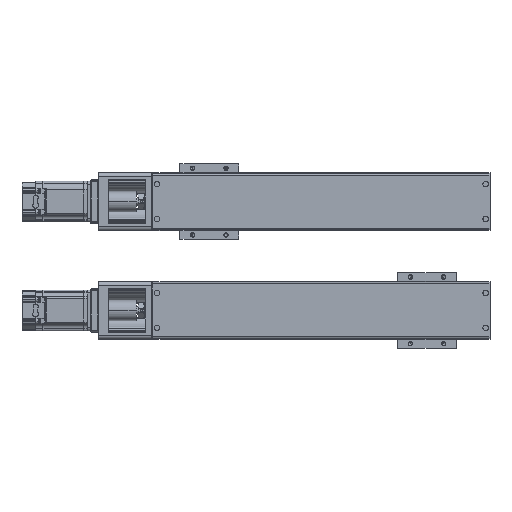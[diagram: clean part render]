
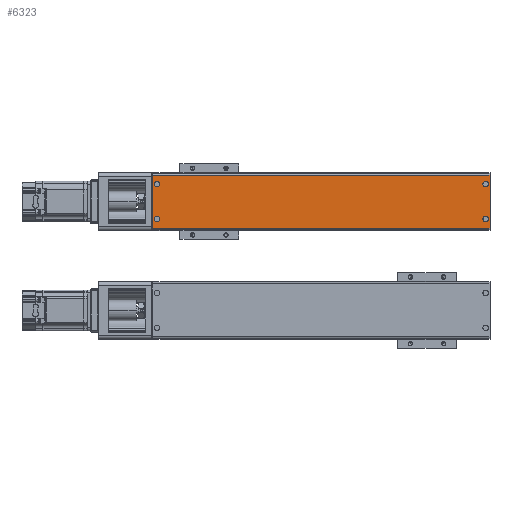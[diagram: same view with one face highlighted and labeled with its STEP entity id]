
A CAD part, top view. The second image highlights one B-rep face of the part: STEP entity #6323.
In plain terms, the highlighted planar face has unit normal (0, 0, 1).
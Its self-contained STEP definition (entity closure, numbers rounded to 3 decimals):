
#6323=ADVANCED_FACE('',(#14474,#14475,#14476,#14477,#14478),#14479,.F.);
#14474=FACE_OUTER_BOUND('',#25627,.T.);
#14475=FACE_BOUND('',#25628,.T.);
#14476=FACE_BOUND('',#25629,.T.);
#14477=FACE_BOUND('',#25630,.T.);
#14478=FACE_BOUND('',#25631,.T.);
#14479=PLANE('',#25632);
#25627=EDGE_LOOP('',(#44517,#44518,#44519,#44520));
#25628=EDGE_LOOP('',(#44521,#44522));
#25629=EDGE_LOOP('',(#44523,#44524));
#25630=EDGE_LOOP('',(#44525,#44526));
#25631=EDGE_LOOP('',(#44527,#44528));
#25632=AXIS2_PLACEMENT_3D('',#44529,#44530,#44531);
#44517=ORIENTED_EDGE('',*,*,#66086,.T.);
#44518=ORIENTED_EDGE('',*,*,#68588,.F.);
#44519=ORIENTED_EDGE('',*,*,#68321,.F.);
#44520=ORIENTED_EDGE('',*,*,#68589,.T.);
#44521=ORIENTED_EDGE('',*,*,#68590,.F.);
#44522=ORIENTED_EDGE('',*,*,#68591,.F.);
#44523=ORIENTED_EDGE('',*,*,#68307,.F.);
#44524=ORIENTED_EDGE('',*,*,#65563,.F.);
#44525=ORIENTED_EDGE('',*,*,#64802,.F.);
#44526=ORIENTED_EDGE('',*,*,#68592,.F.);
#44527=ORIENTED_EDGE('',*,*,#65911,.F.);
#44528=ORIENTED_EDGE('',*,*,#66247,.F.);
#44529=CARTESIAN_POINT('',(452.0,146.0,23.0));
#44530=DIRECTION('',(0.0,0.,-1.0));
#44531=DIRECTION('',(0.0,1.0,0.));
#64802=EDGE_CURVE('',#78385,#78381,#78387,.F.);
#65563=EDGE_CURVE('',#79604,#79606,#79607,.F.);
#65911=EDGE_CURVE('',#80148,#80144,#80150,.F.);
#66086=EDGE_CURVE('',#80433,#80431,#80434,.T.);
#66247=EDGE_CURVE('',#80144,#80148,#80697,.F.);
#68307=EDGE_CURVE('',#79606,#79604,#83773,.F.);
#68321=EDGE_CURVE('',#83795,#83797,#83798,.T.);
#68588=EDGE_CURVE('',#83797,#80431,#84187,.T.);
#68589=EDGE_CURVE('',#83795,#80433,#84188,.T.);
#68590=EDGE_CURVE('',#84189,#84190,#84191,.F.);
#68591=EDGE_CURVE('',#84190,#84189,#84192,.F.);
#68592=EDGE_CURVE('',#78381,#78385,#84193,.F.);
#78381=VERTEX_POINT('',#97138);
#78385=VERTEX_POINT('',#97143);
#78387=CIRCLE('',#97146,3.8);
#79604=VERTEX_POINT('',#98827);
#79606=VERTEX_POINT('',#98830);
#79607=CIRCLE('',#98831,3.8);
#80144=VERTEX_POINT('',#99556);
#80148=VERTEX_POINT('',#99561);
#80150=CIRCLE('',#99564,3.8);
#80431=VERTEX_POINT('',#99951);
#80433=VERTEX_POINT('',#99953);
#80434=LINE('',#99954,#99955);
#80697=CIRCLE('',#100303,3.8);
#83773=CIRCLE('',#104551,3.8);
#83795=VERTEX_POINT('',#104582);
#83797=VERTEX_POINT('',#104584);
#83798=LINE('',#104585,#104586);
#84187=LINE('',#105154,#105155);
#84188=LINE('',#105156,#105157);
#84189=VERTEX_POINT('',#105158);
#84190=VERTEX_POINT('',#105159);
#84191=CIRCLE('',#105160,3.8);
#84192=CIRCLE('',#105161,3.8);
#84193=CIRCLE('',#105162,3.8);
#97138=CARTESIAN_POINT('',(-7.,129.7,23.0));
#97143=CARTESIAN_POINT('',(-7.,137.3,23.0));
#97146=AXIS2_PLACEMENT_3D('',#117581,#117582,#117583);
#98827=CARTESIAN_POINT('',(446.0,129.7,23.0));
#98830=CARTESIAN_POINT('',(446.0,137.3,23.0));
#98831=AXIS2_PLACEMENT_3D('',#118631,#118632,#118633);
#99556=CARTESIAN_POINT('',(-7.,81.7,23.0));
#99561=CARTESIAN_POINT('',(-7.,89.3,23.0));
#99564=AXIS2_PLACEMENT_3D('',#119083,#119084,#119085);
#99951=CARTESIAN_POINT('',(-13.,73.,23.0));
#99953=CARTESIAN_POINT('',(-13.,146.0,23.0));
#99954=CARTESIAN_POINT('',(-13.,146.0,23.0));
#99955=VECTOR('',#119335,1000.0);
#100303=AXIS2_PLACEMENT_3D('',#119568,#119569,#119570);
#104551=AXIS2_PLACEMENT_3D('',#122233,#122234,#122235);
#104582=CARTESIAN_POINT('',(452.0,146.0,23.0));
#104584=CARTESIAN_POINT('',(452.0,73.,23.0));
#104585=CARTESIAN_POINT('',(452.0,146.0,23.0));
#104586=VECTOR('',#122254,1000.0);
#105154=CARTESIAN_POINT('',(452.0,73.,23.0));
#105155=VECTOR('',#122564,1000.0);
#105156=CARTESIAN_POINT('',(452.0,146.0,23.0));
#105157=VECTOR('',#122565,1000.0);
#105158=CARTESIAN_POINT('',(446.0,89.3,23.0));
#105159=CARTESIAN_POINT('',(446.0,81.7,23.0));
#105160=AXIS2_PLACEMENT_3D('',#122566,#122567,#122568);
#105161=AXIS2_PLACEMENT_3D('',#122569,#122570,#122571);
#105162=AXIS2_PLACEMENT_3D('',#122572,#122573,#122574);
#117581=CARTESIAN_POINT('',(-7.,133.5,23.0));
#117582=DIRECTION('',(0.0,0.,-1.0));
#117583=DIRECTION('',(0.0,1.0,0.));
#118631=CARTESIAN_POINT('',(446.0,133.5,23.0));
#118632=DIRECTION('',(0.0,0.,-1.0));
#118633=DIRECTION('',(0.0,1.0,0.));
#119083=CARTESIAN_POINT('',(-7.,85.5,23.0));
#119084=DIRECTION('',(0.0,0.,-1.0));
#119085=DIRECTION('',(0.0,1.0,0.));
#119335=DIRECTION('',(0.0,-1.0,0.));
#119568=CARTESIAN_POINT('',(-7.,85.5,23.0));
#119569=DIRECTION('',(0.0,0.,-1.0));
#119570=DIRECTION('',(0.0,1.0,0.));
#122233=CARTESIAN_POINT('',(446.0,133.5,23.0));
#122234=DIRECTION('',(0.0,0.,-1.0));
#122235=DIRECTION('',(0.0,1.0,0.));
#122254=DIRECTION('',(0.0,-1.0,0.));
#122564=DIRECTION('',(-1.0,0.0,-0.0));
#122565=DIRECTION('',(-1.0,0.0,-0.0));
#122566=CARTESIAN_POINT('',(446.0,85.5,23.0));
#122567=DIRECTION('',(0.0,0.,-1.0));
#122568=DIRECTION('',(0.0,1.0,0.));
#122569=CARTESIAN_POINT('',(446.0,85.5,23.0));
#122570=DIRECTION('',(0.0,0.,-1.0));
#122571=DIRECTION('',(0.0,1.0,0.));
#122572=CARTESIAN_POINT('',(-7.,133.5,23.0));
#122573=DIRECTION('',(0.0,0.,-1.0));
#122574=DIRECTION('',(0.0,1.0,0.));
